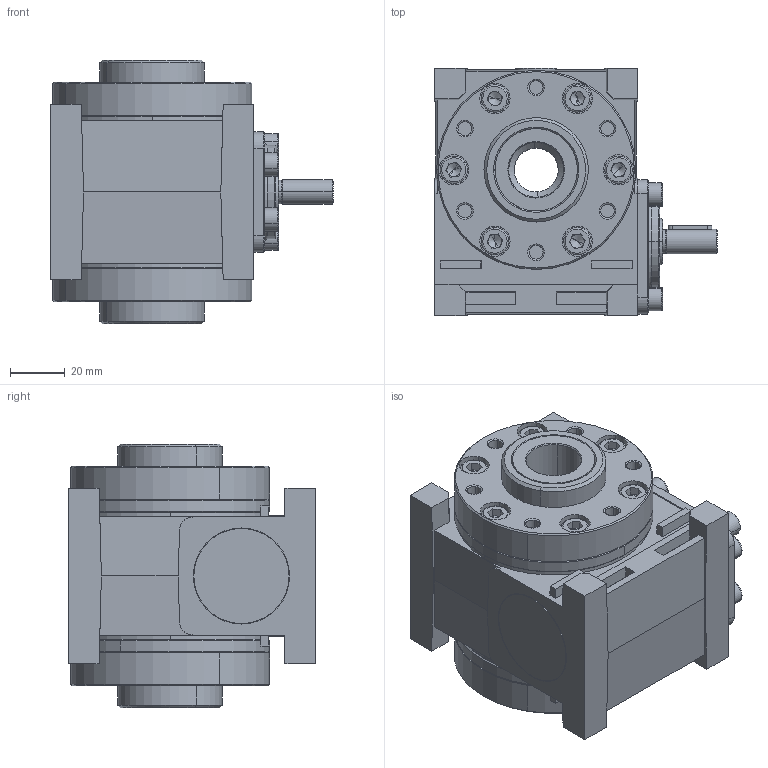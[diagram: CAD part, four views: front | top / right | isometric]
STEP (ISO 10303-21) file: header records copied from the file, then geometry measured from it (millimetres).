
FILE_DESCRIPTION (( 'STEP AP203' ), '1' );
FILE_NAME ('MRP-26_WBS-SP.STEP', '2023-09-05T06:09:59', ( '' ), ( '' ), 'SwSTEP 2.0', 'SolidWorks 2022', '' );
FILE_SCHEMA (( 'CONFIG_CONTROL_DESIGN' ));
Length unit declared in the file: millimetre
Products named in the file (1): MRP-26_WBS-SP
Bounding box: 103 x 90 x 96 mm (x, y, z)
Volume: 437284.6 mm3; surface area: 83062 mm2
Topology: 1 solids, 29 shells, 1076 faces, 2414 edges, 1461 vertices
Faces by surface type: plane 443, cylinder 281, cone 250, torus 98, bspline 4
Entity records: 30071 total; most frequent: DIRECTION 5617, CARTESIAN_POINT 5395, ORIENTED_EDGE 4756, EDGE_CURVE 2378, AXIS2_PLACEMENT_3D 2206, VERTEX_POINT 1461, LINE 1205, VECTOR 1205
